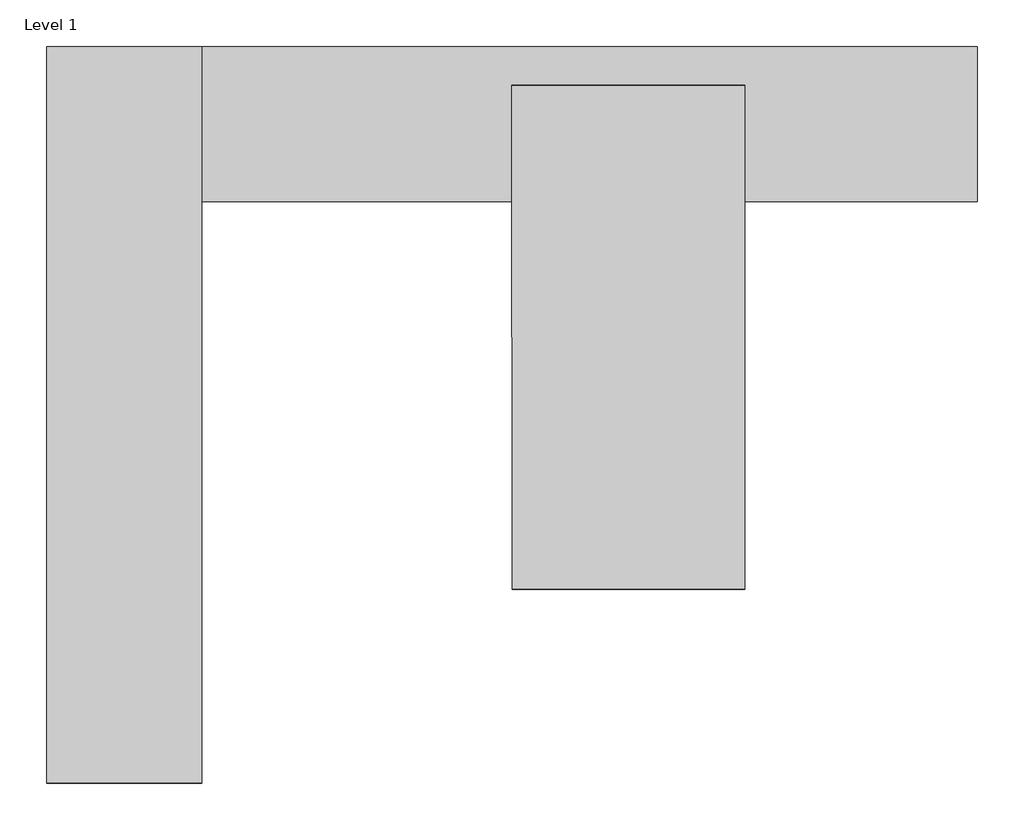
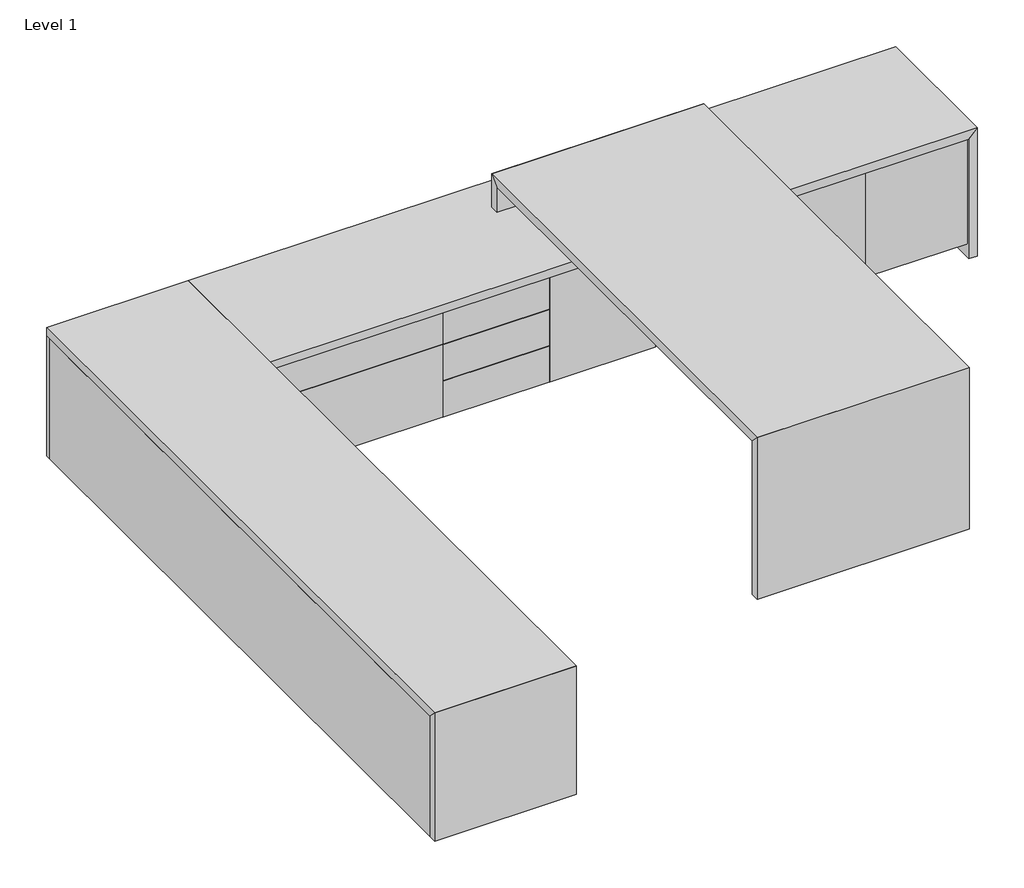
# One storey: 3 proxies.
"""IFC4 building model written with IfcOpenShell, lengths in millimetres."""

from ifc_helpers import new_model, si_unit, origin, place, context, project, spatial, transform, mapped, element, save
from components import generic_models_a2b163ed, generic_models_074bca6a, generic_models_f7374749

model = new_model("IFC4")

# Units and contexts
model_context = context("Model", 3, world=origin())
ifc_project = project(units=[si_unit("LENGTHUNIT", "METRE", prefix="MILLI")], contexts=[model_context])

# Site, building, storey
site = spatial("IfcSite", under=ifc_project)
building = spatial("IfcBuilding", under=site)
storey = spatial("IfcBuildingStorey", under=building, Name="Level 1", Elevation=0.0)

# Proxies
placement = place(None, origin())
generic_models_shape = generic_models_a2b163ed(model_context)
element("IfcBuildingElementProxy", 1, Name="AERO^OFFICE 5_24x120 SIDE CREDENZA-PARTS SOLID", ObjectType="AERO^OFFICE 5_24x120 SIDE CREDENZA-PARTS SOLID", at=placement, inside=storey, context=model_context, shape_type="MappedRepresentation", body=[
    mapped(generic_models_shape, transform((-1425.7202151, -269.8822615, 128.9361799), x_axis=(1.0, 0.0, 0.0), y_axis=(0.0, 0.0, 1.0), z_axis=(0.0, -1.0, 0.0))),
])
generic_models_2_shape = generic_models_074bca6a(model_context)
element("IfcBuildingElementProxy", 2, Name="AERO^OFFICE 5_36x78 WORKSURFACE-PARTS SOLID", ObjectType="AERO^OFFICE 5_36x78 WORKSURFACE-PARTS SOLID", at=placement, inside=storey, context=model_context, shape_type="MappedRepresentation", body=[
    mapped(generic_models_2_shape, transform((-206.5202151, -1793.8822615, 281.3361799), x_axis=(0.0, -1.0, 0.0), y_axis=(0.0, 0.0, 1.0), z_axis=(-1.0, 0.0, 0.0))),
])
generic_models_3_shape = generic_models_f7374749(model_context)
element("IfcBuildingElementProxy", 3, Name="AERO^OFFICE 5_REAR LOW CREDENZA-PARTS SOLID", ObjectType="AERO^OFFICE 5_REAR LOW CREDENZA-PARTS SOLID", at=placement, inside=storey, context=model_context, shape_type="MappedRepresentation", body=[
    mapped(generic_models_3_shape, transform((-1425.7202151, -2555.8822615, 128.9361799), x_axis=(0.0, 1.0, 0.0), y_axis=(0.0, 0.0, 1.0), z_axis=(1.0, 0.0, 0.0))),
])

save(model, "model.ifc")
